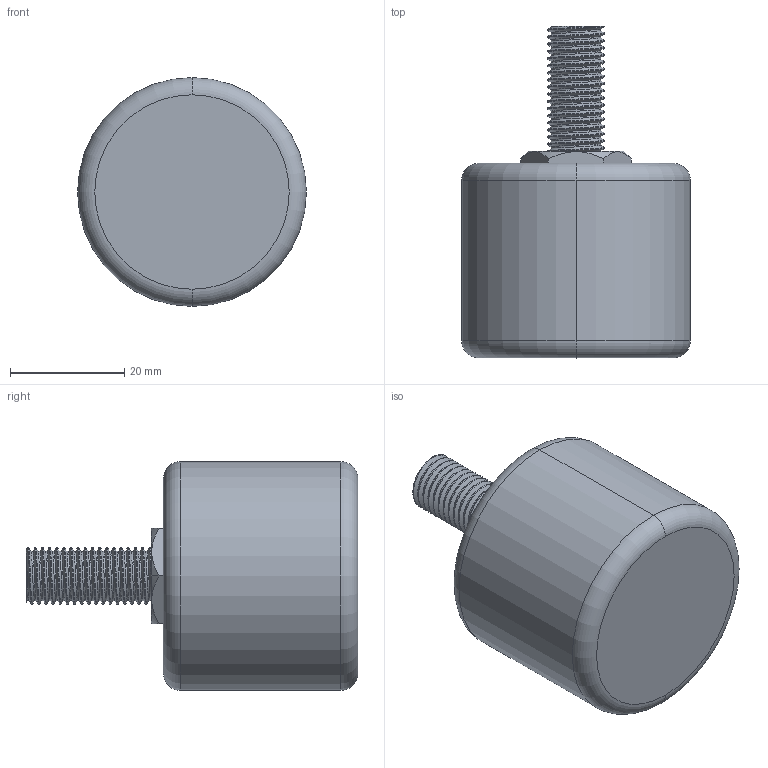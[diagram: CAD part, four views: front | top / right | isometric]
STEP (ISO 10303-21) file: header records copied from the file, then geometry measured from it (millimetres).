
FILE_DESCRIPTION (( 'STEP AP203' ), '1' );
FILE_NAME ('3D_R6677_M10_173487350.STEP', '2024-08-27T08:53:21', ( '' ), ( '' ), 'SwSTEP 2.0', 'SolidWorks 2024', '' );
FILE_SCHEMA (( 'CONFIG_CONTROL_DESIGN' ));
Length unit declared in the file: millimetre
Products named in the file (1): 3D_R6677_M10_173487350
Bounding box: 40 x 58 x 40 mm (x, y, z)
Volume: 42688.2 mm3; surface area: 9873.2 mm2
Topology: 2 solids, 2 shells, 84 faces, 224 edges, 146 vertices
Faces by surface type: cylinder 50, plane 14, bspline 12, cone 4, torus 4
Entity records: 11907 total; most frequent: CARTESIAN_POINT 10117, ORIENTED_EDGE 448, DIRECTION 269, EDGE_CURVE 224, VERTEX_POINT 146, AXIS2_PLACEMENT_3D 101, EDGE_LOOP 88, ADVANCED_FACE 84
